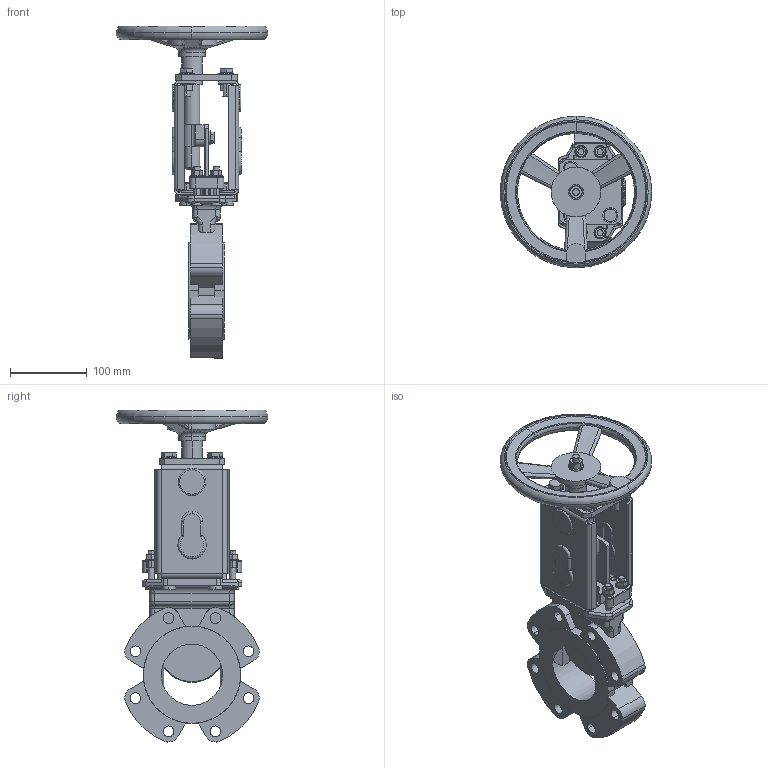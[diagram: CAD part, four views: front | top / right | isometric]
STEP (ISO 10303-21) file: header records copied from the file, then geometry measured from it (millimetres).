
FILE_DESCRIPTION(('STEP AP203'),'1');
FILE_NAME('G:/KONSTRUK/3-d block för CD/WB VALVE/HAND WHEEL/80/WB14-DN80-HW.stp','2012-11-30T12:43:46',(' '),(' '),'Spatial InterOp 3D',' ',' ');
FILE_SCHEMA(('CONFIG_CONTROL_DESIGN'));
Length unit declared in the file: millimetre
Products named in the file (7): 1; 2; 3; 4; 5; 6; 7
Bounding box: 198 x 198 x 433.88 mm (x, y, z)
Volume: 1600810.1 mm3; surface area: 351453.2 mm2
Topology: 7 solids, 14 shells, 1176 faces, 2881 edges, 1791 vertices
Faces by surface type: plane 471, cylinder 355, cone 255, torus 62, bspline 25, sphere 8
Entity records: 42773 total; most frequent: CARTESIAN_POINT 14801, DIRECTION 5875, ORIENTED_EDGE 5738, EDGE_CURVE 2869, AXIS2_PLACEMENT_3D 2319, VERTEX_POINT 1791, EDGE_LOOP 1298, LINE 1237
